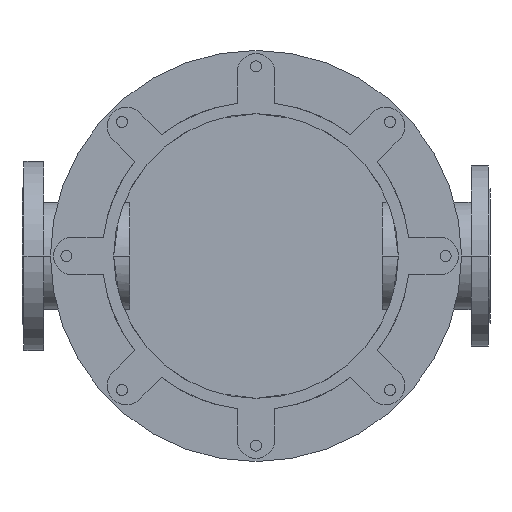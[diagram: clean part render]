
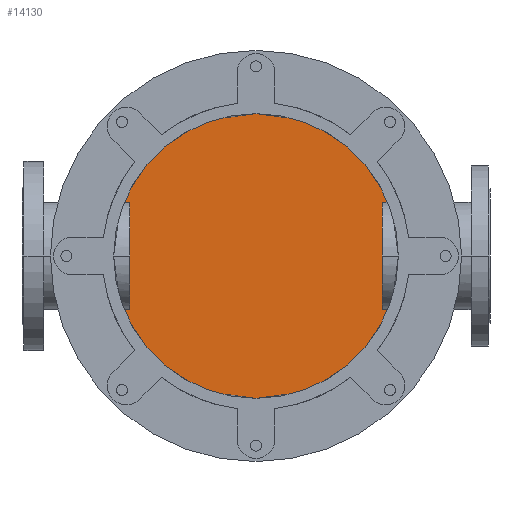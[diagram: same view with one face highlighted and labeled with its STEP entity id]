
A CAD part, front view. The second image highlights one B-rep face of the part: STEP entity #14130.
In plain terms, the highlighted planar face has unit normal (0, -1, 0).
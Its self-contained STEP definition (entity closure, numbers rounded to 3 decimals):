
#2792=CARTESIAN_POINT('',(0.,1172.,0.));
#2793=DIRECTION('',(0.,-1.,0.));
#2794=DIRECTION('',(0.,0.,1.));
#2795=AXIS2_PLACEMENT_3D('',#2792,#2793,#2794);
#2918=CARTESIAN_POINT('',(0.,1172.,0.));
#2919=DIRECTION('',(0.,-1.,0.));
#2920=DIRECTION('',(0.,0.,-1.));
#2921=AXIS2_PLACEMENT_3D('',#2918,#2919,#2920);
#9163=CARTESIAN_POINT('',(0.,1172.,240.));
#9164=CARTESIAN_POINT('',(0.,1172.,-240.));
#9165=VERTEX_POINT('',#9163);
#9166=VERTEX_POINT('',#9164);
#14120=CARTESIAN_POINT('',(0.,1172.,0.));
#14121=DIRECTION('',(0.,1.,0.));
#14122=DIRECTION('',(0.,0.,-1.));
#14123=AXIS2_PLACEMENT_3D('',#14120,#14121,#14122);
#14124=PLANE('',#14123);
#14125=ORIENTED_EDGE('',*,*,#14104,.F.);
#14127=ORIENTED_EDGE('',*,*,#14126,.F.);
#14128=EDGE_LOOP('',(#14125,#14127));
#14129=FACE_OUTER_BOUND('',#14128,.F.);
#14130=ADVANCED_FACE('',(#14129),#14124,.F.);
#2796=CIRCLE('',#2795,240.);
#2922=CIRCLE('',#2921,240.);
#14104=EDGE_CURVE('',#9165,#9166,#2796,.T.);
#14126=EDGE_CURVE('',#9166,#9165,#2922,.T.);
